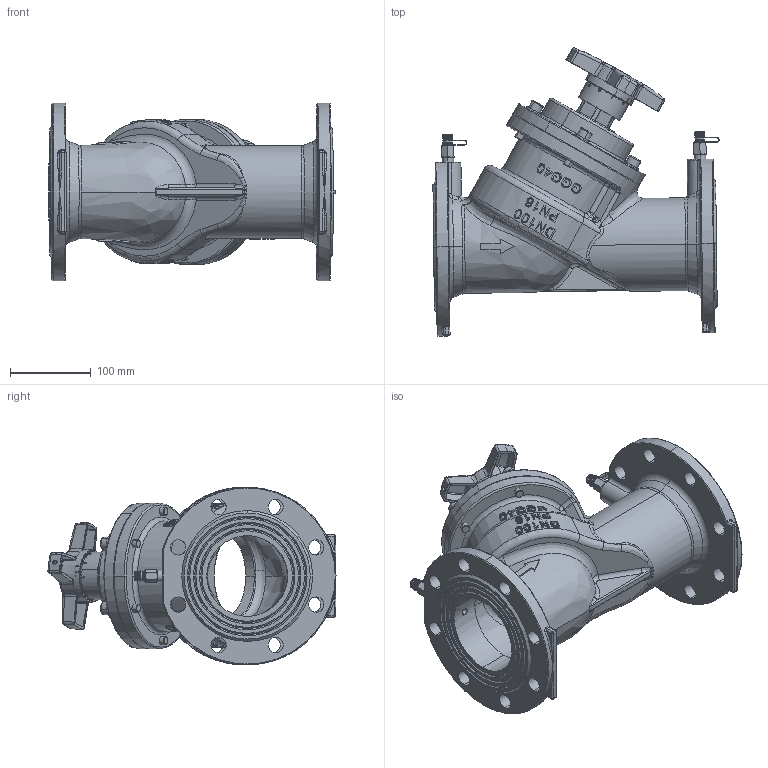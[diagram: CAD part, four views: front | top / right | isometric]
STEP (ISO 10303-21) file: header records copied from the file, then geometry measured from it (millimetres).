
FILE_DESCRIPTION (( 'STEP AP203' ), '1' );
FILE_NAME ('DN100平衡阀装配体.STEP', '2024-03-01T01:46:19', ( 'MicroSoft' ), ( 'MicroSoft' ), 'SwSTEP 2.0', 'SolidWorks 2024', '' );
FILE_SCHEMA (( 'CONFIG_CONTROL_DESIGN' ));
Length unit declared in the file: millimetre
Products named in the file (13): HW125-TH19-18-06-无圆角; HW125-TH19-18-01副本-无圆角2; HW125-TH19-18-05-无圆角; DSSV100-0FP01-01-A6-Model; hexagon socket head cap screws gb_GB_FASTENER_SCREWS_HSHCS M10X40-N; TEST  NOZZLE; DSSV100-0FP01-02平阀盖125; DN100平衡阀装配体; HW125-TH19-18-02-无圆角; HW125-TH19-18-07-无圆角; plain washers--product grade c gb_GB_FASTENER_WASHER_SMWC 10; HW125-TH19-18-00 - 双视窗; HW125-TH19-18-03-无圆角
Assembly tree (23 placements, depth 3):
  DN100平衡阀装配体
    DSSV100-0FP01-01-A6-Model
    DSSV100-0FP01-02平阀盖125
    TEST  NOZZLE  x2
    plain washers--product grade c gb_GB_FASTENER_WASHER_SMWC 10  x6
    hexagon socket head cap screws gb_GB_FASTENER_SCREWS_HSHCS M10X40-N  x6
    HW125-TH19-18-00 - 双视窗
      HW125-TH19-18-02-无圆角
      HW125-TH19-18-01副本-无圆角2
      HW125-TH19-18-03-无圆角
      HW125-TH19-18-05-无圆角
      HW125-TH19-18-06-无圆角
      HW125-TH19-18-07-无圆角
Bounding box: 354.16 x 356.55 x 220 mm (x, y, z)
Volume: 3231904.7 mm3; surface area: 715023.9 mm2
Topology: 26 solids, 26 shells, 5849 faces, 14538 edges, 9050 vertices
Faces by surface type: plane 2234, cylinder 1476, bspline 963, torus 829, cone 210, sphere 137
Entity records: 232882 total; most frequent: CARTESIAN_POINT 109038, ORIENTED_EDGE 26832, DIRECTION 23573, EDGE_CURVE 13416, AXIS2_PLACEMENT_3D 8908, VERTEX_POINT 8398, EDGE_LOOP 5904, VECTOR 5757
